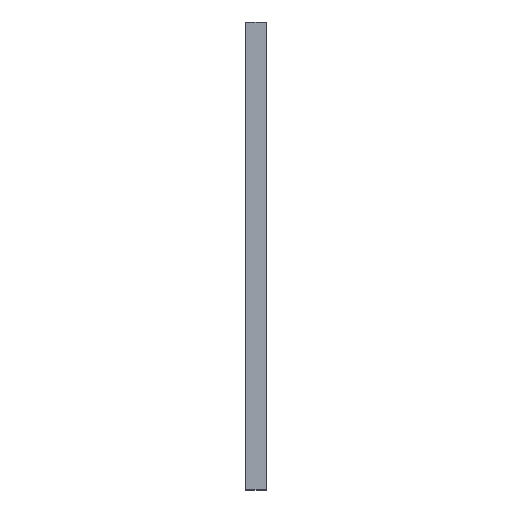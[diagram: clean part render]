
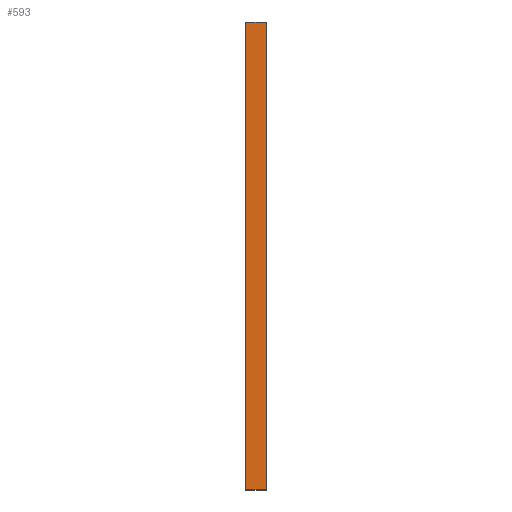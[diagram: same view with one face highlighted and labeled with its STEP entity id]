
A CAD part, top view. The second image highlights one B-rep face of the part: STEP entity #593.
In plain terms, the highlighted planar face has unit normal (0, 0, 1).
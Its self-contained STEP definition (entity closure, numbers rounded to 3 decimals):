
#44 = PLANE('',#45);
#45 = AXIS2_PLACEMENT_3D('',#46,#47,#48);
#46 = CARTESIAN_POINT('',(0.,0.,0.));
#47 = DIRECTION('',(0.,-1.,0.));
#48 = DIRECTION('',(0.,-0.,-1.));
#100 = PLANE('',#101);
#101 = AXIS2_PLACEMENT_3D('',#102,#103,#104);
#102 = CARTESIAN_POINT('',(0.,160.,0.));
#103 = DIRECTION('',(0.,-1.,0.));
#104 = DIRECTION('',(0.,-0.,-1.));
#484 = PLANE('',#485);
#485 = AXIS2_PLACEMENT_3D('',#486,#487,#488);
#486 = CARTESIAN_POINT('',(-3.5,160.,2.5));
#487 = DIRECTION('',(1.,-0.,0.));
#488 = DIRECTION('',(0.,0.,-1.));
#522 = VERTEX_POINT('',#523);
#523 = CARTESIAN_POINT('',(-3.5,0.,2.5));
#544 = EDGE_CURVE('',#545,#522,#547,.T.);
#545 = VERTEX_POINT('',#546);
#546 = CARTESIAN_POINT('',(-3.5,160.,2.5));
#547 = SURFACE_CURVE('',#548,(#552,#559),.PCURVE_S1.);
#548 = LINE('',#549,#550);
#549 = CARTESIAN_POINT('',(-3.5,160.,2.5));
#550 = VECTOR('',#551,1.);
#551 = DIRECTION('',(-0.,-1.,-0.));
#552 = PCURVE('',#484,#553);
#553 = DEFINITIONAL_REPRESENTATION('',(#554),#558);
#554 = LINE('',#555,#556);
#555 = CARTESIAN_POINT('',(0.,0.));
#556 = VECTOR('',#557,1.);
#557 = DIRECTION('',(0.,-1.));
#558 = ( GEOMETRIC_REPRESENTATION_CONTEXT(2) 
PARAMETRIC_REPRESENTATION_CONTEXT() REPRESENTATION_CONTEXT('2D SPACE',''
  ) );
#559 = PCURVE('',#560,#565);
#560 = PLANE('',#561);
#561 = AXIS2_PLACEMENT_3D('',#562,#563,#564);
#562 = CARTESIAN_POINT('',(-3.5,160.,2.5));
#563 = DIRECTION('',(0.,0.,-1.));
#564 = DIRECTION('',(-1.,0.,-0.));
#565 = DEFINITIONAL_REPRESENTATION('',(#566),#570);
#566 = LINE('',#567,#568);
#567 = CARTESIAN_POINT('',(0.,0.));
#568 = VECTOR('',#569,1.);
#569 = DIRECTION('',(0.,-1.));
#570 = ( GEOMETRIC_REPRESENTATION_CONTEXT(2) 
PARAMETRIC_REPRESENTATION_CONTEXT() REPRESENTATION_CONTEXT('2D SPACE',''
  ) );
#593 = ADVANCED_FACE('',(#594),#560,.F.);
#594 = FACE_BOUND('',#595,.T.);
#595 = EDGE_LOOP('',(#596,#619,#647,#668));
#596 = ORIENTED_EDGE('',*,*,#597,.T.);
#597 = EDGE_CURVE('',#522,#598,#600,.T.);
#598 = VERTEX_POINT('',#599);
#599 = CARTESIAN_POINT('',(3.5,0.,2.5));
#600 = SURFACE_CURVE('',#601,(#605,#612),.PCURVE_S1.);
#601 = LINE('',#602,#603);
#602 = CARTESIAN_POINT('',(-3.5,0.,2.5));
#603 = VECTOR('',#604,1.);
#604 = DIRECTION('',(1.,0.,0.));
#605 = PCURVE('',#560,#606);
#606 = DEFINITIONAL_REPRESENTATION('',(#607),#611);
#607 = LINE('',#608,#609);
#608 = CARTESIAN_POINT('',(-0.,-160.));
#609 = VECTOR('',#610,1.);
#610 = DIRECTION('',(-1.,0.));
#611 = ( GEOMETRIC_REPRESENTATION_CONTEXT(2) 
PARAMETRIC_REPRESENTATION_CONTEXT() REPRESENTATION_CONTEXT('2D SPACE',''
  ) );
#612 = PCURVE('',#44,#613);
#613 = DEFINITIONAL_REPRESENTATION('',(#614),#618);
#614 = LINE('',#615,#616);
#615 = CARTESIAN_POINT('',(-2.5,-3.5));
#616 = VECTOR('',#617,1.);
#617 = DIRECTION('',(0.,1.));
#618 = ( GEOMETRIC_REPRESENTATION_CONTEXT(2) 
PARAMETRIC_REPRESENTATION_CONTEXT() REPRESENTATION_CONTEXT('2D SPACE',''
  ) );
#619 = ORIENTED_EDGE('',*,*,#620,.F.);
#620 = EDGE_CURVE('',#621,#598,#623,.T.);
#621 = VERTEX_POINT('',#622);
#622 = CARTESIAN_POINT('',(3.5,160.,2.5));
#623 = SURFACE_CURVE('',#624,(#628,#635),.PCURVE_S1.);
#624 = LINE('',#625,#626);
#625 = CARTESIAN_POINT('',(3.5,160.,2.5));
#626 = VECTOR('',#627,1.);
#627 = DIRECTION('',(-0.,-1.,-0.));
#628 = PCURVE('',#560,#629);
#629 = DEFINITIONAL_REPRESENTATION('',(#630),#634);
#630 = LINE('',#631,#632);
#631 = CARTESIAN_POINT('',(-7.,0.));
#632 = VECTOR('',#633,1.);
#633 = DIRECTION('',(0.,-1.));
#634 = ( GEOMETRIC_REPRESENTATION_CONTEXT(2) 
PARAMETRIC_REPRESENTATION_CONTEXT() REPRESENTATION_CONTEXT('2D SPACE',''
  ) );
#635 = PCURVE('',#636,#641);
#636 = PLANE('',#637);
#637 = AXIS2_PLACEMENT_3D('',#638,#639,#640);
#638 = CARTESIAN_POINT('',(3.5,160.,2.5));
#639 = DIRECTION('',(-1.,0.,0.));
#640 = DIRECTION('',(0.,0.,1.));
#641 = DEFINITIONAL_REPRESENTATION('',(#642),#646);
#642 = LINE('',#643,#644);
#643 = CARTESIAN_POINT('',(0.,0.));
#644 = VECTOR('',#645,1.);
#645 = DIRECTION('',(0.,-1.));
#646 = ( GEOMETRIC_REPRESENTATION_CONTEXT(2) 
PARAMETRIC_REPRESENTATION_CONTEXT() REPRESENTATION_CONTEXT('2D SPACE',''
  ) );
#647 = ORIENTED_EDGE('',*,*,#648,.F.);
#648 = EDGE_CURVE('',#545,#621,#649,.T.);
#649 = SURFACE_CURVE('',#650,(#654,#661),.PCURVE_S1.);
#650 = LINE('',#651,#652);
#651 = CARTESIAN_POINT('',(-3.5,160.,2.5));
#652 = VECTOR('',#653,1.);
#653 = DIRECTION('',(1.,0.,0.));
#654 = PCURVE('',#560,#655);
#655 = DEFINITIONAL_REPRESENTATION('',(#656),#660);
#656 = LINE('',#657,#658);
#657 = CARTESIAN_POINT('',(0.,0.));
#658 = VECTOR('',#659,1.);
#659 = DIRECTION('',(-1.,0.));
#660 = ( GEOMETRIC_REPRESENTATION_CONTEXT(2) 
PARAMETRIC_REPRESENTATION_CONTEXT() REPRESENTATION_CONTEXT('2D SPACE',''
  ) );
#661 = PCURVE('',#100,#662);
#662 = DEFINITIONAL_REPRESENTATION('',(#663),#667);
#663 = LINE('',#664,#665);
#664 = CARTESIAN_POINT('',(-2.5,-3.5));
#665 = VECTOR('',#666,1.);
#666 = DIRECTION('',(0.,1.));
#667 = ( GEOMETRIC_REPRESENTATION_CONTEXT(2) 
PARAMETRIC_REPRESENTATION_CONTEXT() REPRESENTATION_CONTEXT('2D SPACE',''
  ) );
#668 = ORIENTED_EDGE('',*,*,#544,.T.);
